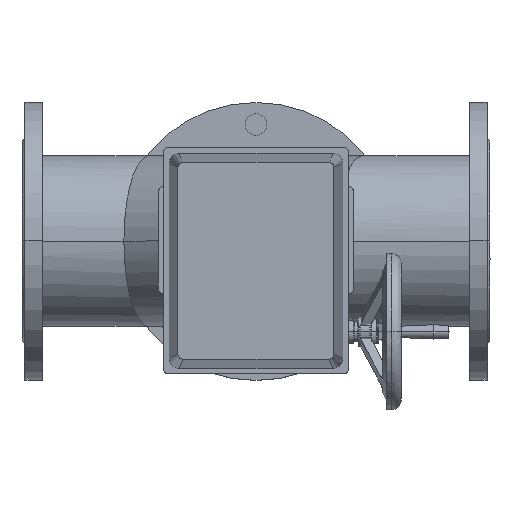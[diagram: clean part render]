
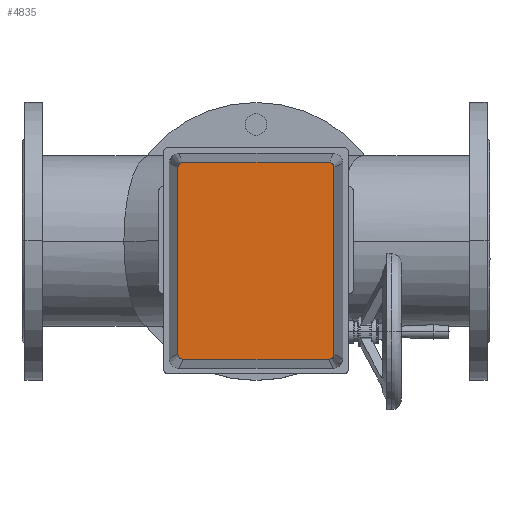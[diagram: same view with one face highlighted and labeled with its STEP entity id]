
A CAD part, top view. The second image highlights one B-rep face of the part: STEP entity #4835.
In plain terms, the highlighted planar face has unit normal (0, 0, 1).
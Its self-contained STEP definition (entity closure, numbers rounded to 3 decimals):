
#343=LINE('',#8443,#623);
#344=LINE('',#8447,#624);
#345=LINE('',#8451,#625);
#346=LINE('',#8455,#626);
#623=VECTOR('',#6386,304.8);
#624=VECTOR('',#6389,304.8);
#625=VECTOR('',#6392,304.8);
#626=VECTOR('',#6395,304.8);
#1113=FACE_OUTER_BOUND('',#1449,.T.);
#1449=EDGE_LOOP('',(#3677,#3678,#3679,#3680,#3681,#3682,#3683,#3684));
#1797=CIRCLE('',#5332,5.);
#1798=CIRCLE('',#5333,5.);
#1799=CIRCLE('',#5334,5.);
#1800=CIRCLE('',#5335,5.);
#2163=VERTEX_POINT('',#8441);
#2164=VERTEX_POINT('',#8442);
#2165=VERTEX_POINT('',#8444);
#2166=VERTEX_POINT('',#8446);
#2167=VERTEX_POINT('',#8448);
#2168=VERTEX_POINT('',#8450);
#2169=VERTEX_POINT('',#8452);
#2170=VERTEX_POINT('',#8454);
#2693=EDGE_CURVE('',#2163,#2164,#343,.T.);
#2694=EDGE_CURVE('',#2164,#2165,#1797,.T.);
#2695=EDGE_CURVE('',#2165,#2166,#344,.T.);
#2696=EDGE_CURVE('',#2166,#2167,#1798,.T.);
#2697=EDGE_CURVE('',#2167,#2168,#345,.T.);
#2698=EDGE_CURVE('',#2168,#2169,#1799,.T.);
#2699=EDGE_CURVE('',#2169,#2170,#346,.T.);
#2700=EDGE_CURVE('',#2170,#2163,#1800,.T.);
#3677=ORIENTED_EDGE('',*,*,#2693,.T.);
#3678=ORIENTED_EDGE('',*,*,#2694,.T.);
#3679=ORIENTED_EDGE('',*,*,#2695,.T.);
#3680=ORIENTED_EDGE('',*,*,#2696,.T.);
#3681=ORIENTED_EDGE('',*,*,#2697,.T.);
#3682=ORIENTED_EDGE('',*,*,#2698,.T.);
#3683=ORIENTED_EDGE('',*,*,#2699,.T.);
#3684=ORIENTED_EDGE('',*,*,#2700,.T.);
#4333=PLANE('',#5331);
#4835=ADVANCED_FACE('',(#1113),#4333,.T.);
#5331=AXIS2_PLACEMENT_3D('',#8440,#6384,#6385);
#5332=AXIS2_PLACEMENT_3D('',#8445,#6387,#6388);
#5333=AXIS2_PLACEMENT_3D('',#8449,#6390,#6391);
#5334=AXIS2_PLACEMENT_3D('',#8453,#6393,#6394);
#5335=AXIS2_PLACEMENT_3D('',#8456,#6396,#6397);
#6384=DIRECTION('center_axis',(0.,0.,1.));
#6385=DIRECTION('ref_axis',(0.,-1.,0.));
#6386=DIRECTION('',(0.,-1.,0.));
#6387=DIRECTION('center_axis',(0.,0.,1.));
#6388=DIRECTION('ref_axis',(1.,0.,0.));
#6389=DIRECTION('',(1.,0.,0.));
#6390=DIRECTION('center_axis',(0.,0.,1.));
#6391=DIRECTION('ref_axis',(1.,0.,0.));
#6392=DIRECTION('',(0.,1.,0.));
#6393=DIRECTION('center_axis',(0.,0.,1.));
#6394=DIRECTION('ref_axis',(1.,0.,0.));
#6395=DIRECTION('',(-1.,0.,0.));
#6396=DIRECTION('center_axis',(0.,0.,1.));
#6397=DIRECTION('ref_axis',(1.,0.,0.));
#8440=CARTESIAN_POINT('Origin',(-21.551,0.,
592.));
#8441=CARTESIAN_POINT('',(-122.531,75.,592.));
#8442=CARTESIAN_POINT('',(-122.531,-75.,592.));
#8443=CARTESIAN_POINT('',(-122.531,-75.,592.));
#8444=CARTESIAN_POINT('',(-117.531,-80.,592.));
#8445=CARTESIAN_POINT('Origin',(-117.531,-75.,592.));
#8446=CARTESIAN_POINT('',(74.43,-80.,592.));
#8447=CARTESIAN_POINT('',(74.43,-80.,592.));
#8448=CARTESIAN_POINT('',(79.43,-75.,592.));
#8449=CARTESIAN_POINT('Origin',(74.43,-75.,592.));
#8450=CARTESIAN_POINT('',(79.43,75.,592.));
#8451=CARTESIAN_POINT('',(79.43,75.,592.));
#8452=CARTESIAN_POINT('',(74.43,80.,592.));
#8453=CARTESIAN_POINT('Origin',(74.43,75.,592.));
#8454=CARTESIAN_POINT('',(-117.531,80.,592.));
#8455=CARTESIAN_POINT('',(-117.531,80.,592.));
#8456=CARTESIAN_POINT('Origin',(-117.531,75.,592.));
